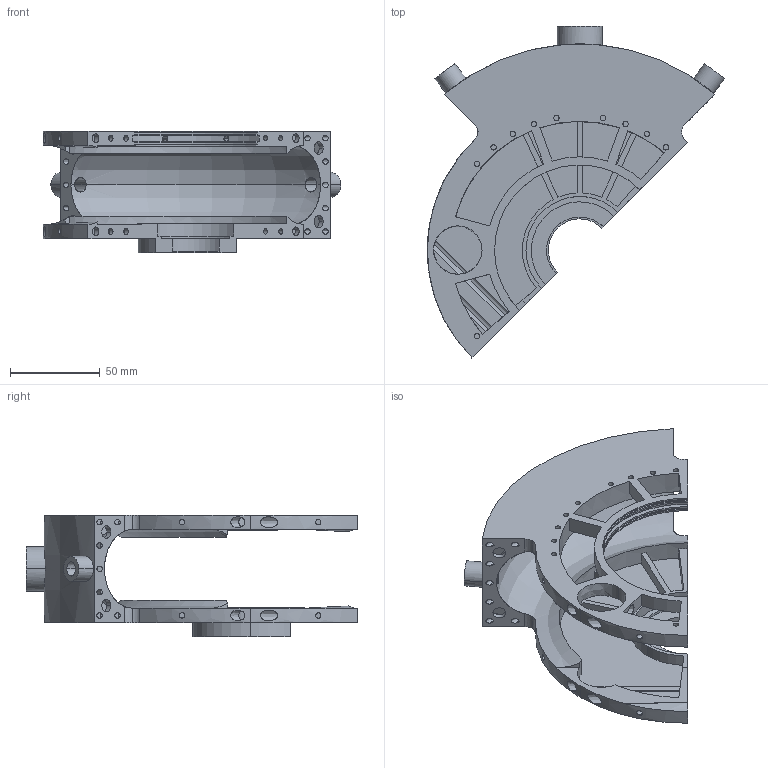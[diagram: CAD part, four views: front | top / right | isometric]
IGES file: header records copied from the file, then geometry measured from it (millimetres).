
Start section: IMSI TurboCAD v14.0
Global section: author: NULL; organization: NULL; date: 20240129.165620; units: millimetre
Bounding box: 165.82 x 185.1 x 68 mm (x, y, z)
Surface area: 126793.2 mm2 (no closed solid volume)
Topology: 0 solids, 0 shells, 395 faces, 2426 edges, 2424 vertices
Faces by surface type: revolution 254, extrusion 141
